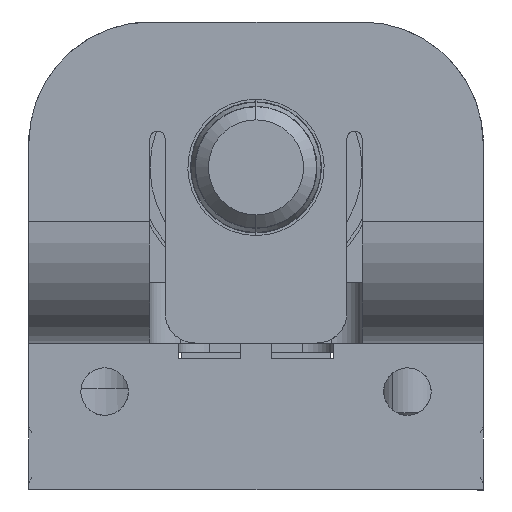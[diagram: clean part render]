
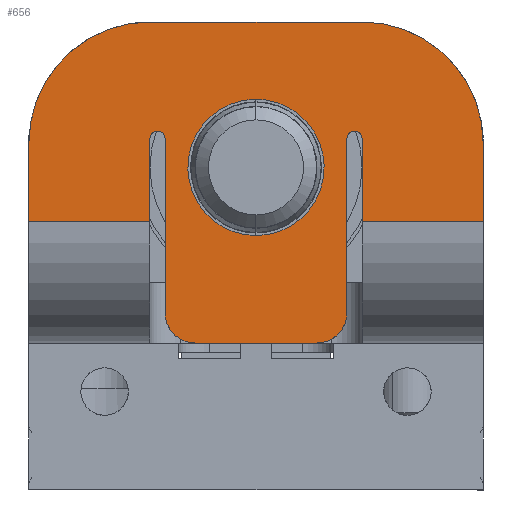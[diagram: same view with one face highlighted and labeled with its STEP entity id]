
A CAD part, left-side view. The second image highlights one B-rep face of the part: STEP entity #656.
In plain terms, the highlighted planar face has unit normal (-1, 0, 0).
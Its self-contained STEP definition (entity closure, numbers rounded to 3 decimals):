
#63=AXIS2_PLACEMENT_3D('Circle Axis2P3D',#61,#62,$) ;
#87=AXIS2_PLACEMENT_3D('Circle Axis2P3D',#85,#86,$) ;
#283=AXIS2_PLACEMENT_3D('Circle Axis2P3D',#281,#282,$) ;
#338=AXIS2_PLACEMENT_3D('Circle Axis2P3D',#336,#337,$) ;
#362=AXIS2_PLACEMENT_3D('Circle Axis2P3D',#360,#361,$) ;
#520=AXIS2_PLACEMENT_3D('Circle Axis2P3D',#518,#519,$) ;
#564=AXIS2_PLACEMENT_3D('Plane Axis2P3D',#561,#562,#563) ;
#577=AXIS2_PLACEMENT_3D('Circle Axis2P3D',#575,#576,$) ;
#594=AXIS2_PLACEMENT_3D('Circle Axis2P3D',#592,#593,$) ;
#608=AXIS2_PLACEMENT_3D('Circle Axis2P3D',#606,#607,$) ;
#615=AXIS2_PLACEMENT_3D('Circle Axis2P3D',#613,#614,$) ;
#58=CARTESIAN_POINT('Vertex',(-2.,1.975,-2.721)) ;
#61=CARTESIAN_POINT('Axis2P3D Location',(-2.,0.,-3.8)) ;
#65=CARTESIAN_POINT('Vertex',(-2.,-1.975,-4.879)) ;
#85=CARTESIAN_POINT('Axis2P3D Location',(-2.,0.,-3.8)) ;
#281=CARTESIAN_POINT('Axis2P3D Location',(-2.,-2.,1.)) ;
#285=CARTESIAN_POINT('Vertex',(-2.,-2.,2.)) ;
#287=CARTESIAN_POINT('Vertex',(-2.,-3.,1.)) ;
#312=CARTESIAN_POINT('Line Origine',(-2.,-3.,-1.875)) ;
#316=CARTESIAN_POINT('Vertex',(-2.,-3.,-4.75)) ;
#336=CARTESIAN_POINT('Axis2P3D Location',(-2.,-3.25,-4.75)) ;
#340=CARTESIAN_POINT('Vertex',(-2.,-3.25,-5.)) ;
#360=CARTESIAN_POINT('Axis2P3D Location',(-2.,-3.25,-4.75)) ;
#364=CARTESIAN_POINT('Vertex',(-2.,-3.5,-4.75)) ;
#384=CARTESIAN_POINT('Line Origine',(-2.,-3.5,-3.375)) ;
#388=CARTESIAN_POINT('Vertex',(-2.,-3.5,-2.)) ;
#474=CARTESIAN_POINT('Vertex',(-2.,-7.5,-2.)) ;
#494=CARTESIAN_POINT('Line Origine',(-2.,-7.5,-3.3)) ;
#498=CARTESIAN_POINT('Vertex',(-2.,-7.5,-4.6)) ;
#518=CARTESIAN_POINT('Axis2P3D Location',(-2.,-3.5,-4.6)) ;
#522=CARTESIAN_POINT('Vertex',(-2.,-3.5,-8.6)) ;
#542=CARTESIAN_POINT('Line Origine',(-2.,0.,-8.6)) ;
#546=CARTESIAN_POINT('Vertex',(-2.,3.5,-8.6)) ;
#561=CARTESIAN_POINT('Axis2P3D Location',(-2.,0.,2.)) ;
#566=CARTESIAN_POINT('Line Origine',(-2.,7.5,-3.3)) ;
#570=CARTESIAN_POINT('Vertex',(-2.,7.5,-2.)) ;
#572=CARTESIAN_POINT('Vertex',(-2.,7.5,-4.6)) ;
#575=CARTESIAN_POINT('Axis2P3D Location',(-2.,3.5,-4.6)) ;
#580=CARTESIAN_POINT('Line Origine',(-2.,-5.5,-2.)) ;
#585=CARTESIAN_POINT('Line Origine',(-2.,0.,2.)) ;
#589=CARTESIAN_POINT('Vertex',(-2.,2.,2.)) ;
#592=CARTESIAN_POINT('Axis2P3D Location',(-2.,2.,1.)) ;
#596=CARTESIAN_POINT('Vertex',(-2.,3.,1.)) ;
#599=CARTESIAN_POINT('Line Origine',(-2.,3.,-1.875)) ;
#603=CARTESIAN_POINT('Vertex',(-2.,3.,-4.75)) ;
#606=CARTESIAN_POINT('Axis2P3D Location',(-2.,3.25,-4.75)) ;
#610=CARTESIAN_POINT('Vertex',(-2.,3.25,-5.)) ;
#613=CARTESIAN_POINT('Axis2P3D Location',(-2.,3.25,-4.75)) ;
#617=CARTESIAN_POINT('Vertex',(-2.,3.5,-4.75)) ;
#620=CARTESIAN_POINT('Line Origine',(-2.,3.5,-3.375)) ;
#624=CARTESIAN_POINT('Vertex',(-2.,3.5,-2.)) ;
#627=CARTESIAN_POINT('Line Origine',(-2.,5.5,-2.)) ;
#62=DIRECTION('Axis2P3D Direction',(1.,0.,-0.)) ;
#86=DIRECTION('Axis2P3D Direction',(1.,0.,-0.)) ;
#282=DIRECTION('Axis2P3D Direction',(1.,0.,-0.)) ;
#313=DIRECTION('Vector Direction',(0.,0.,-1.)) ;
#337=DIRECTION('Axis2P3D Direction',(1.,0.,-0.)) ;
#361=DIRECTION('Axis2P3D Direction',(1.,0.,-0.)) ;
#385=DIRECTION('Vector Direction',(0.,0.,-1.)) ;
#495=DIRECTION('Vector Direction',(0.,0.,-1.)) ;
#519=DIRECTION('Axis2P3D Direction',(1.,0.,-0.)) ;
#543=DIRECTION('Vector Direction',(0.,1.,0.)) ;
#562=DIRECTION('Axis2P3D Direction',(1.,0.,-0.)) ;
#563=DIRECTION('Axis2P3D XDirection',(-0.,0.,-1.)) ;
#567=DIRECTION('Vector Direction',(0.,0.,-1.)) ;
#576=DIRECTION('Axis2P3D Direction',(1.,0.,-0.)) ;
#581=DIRECTION('Vector Direction',(0.,1.,0.)) ;
#586=DIRECTION('Vector Direction',(0.,1.,0.)) ;
#593=DIRECTION('Axis2P3D Direction',(1.,0.,-0.)) ;
#600=DIRECTION('Vector Direction',(0.,0.,-1.)) ;
#607=DIRECTION('Axis2P3D Direction',(1.,0.,-0.)) ;
#614=DIRECTION('Axis2P3D Direction',(1.,0.,-0.)) ;
#621=DIRECTION('Vector Direction',(0.,0.,-1.)) ;
#628=DIRECTION('Vector Direction',(0.,1.,0.)) ;
#314=VECTOR('Line Direction',#313,1.) ;
#386=VECTOR('Line Direction',#385,1.) ;
#496=VECTOR('Line Direction',#495,1.) ;
#544=VECTOR('Line Direction',#543,1.) ;
#568=VECTOR('Line Direction',#567,1.) ;
#582=VECTOR('Line Direction',#581,1.) ;
#587=VECTOR('Line Direction',#586,1.) ;
#601=VECTOR('Line Direction',#600,1.) ;
#622=VECTOR('Line Direction',#621,1.) ;
#629=VECTOR('Line Direction',#628,1.) ;
#633=ORIENTED_EDGE('',*,*,#574,.T.) ;
#634=ORIENTED_EDGE('',*,*,#579,.F.) ;
#635=ORIENTED_EDGE('',*,*,#548,.F.) ;
#636=ORIENTED_EDGE('',*,*,#524,.F.) ;
#637=ORIENTED_EDGE('',*,*,#500,.F.) ;
#638=ORIENTED_EDGE('',*,*,#584,.T.) ;
#639=ORIENTED_EDGE('',*,*,#390,.T.) ;
#640=ORIENTED_EDGE('',*,*,#366,.T.) ;
#641=ORIENTED_EDGE('',*,*,#342,.T.) ;
#642=ORIENTED_EDGE('',*,*,#318,.F.) ;
#643=ORIENTED_EDGE('',*,*,#289,.F.) ;
#644=ORIENTED_EDGE('',*,*,#591,.T.) ;
#645=ORIENTED_EDGE('',*,*,#598,.F.) ;
#646=ORIENTED_EDGE('',*,*,#605,.T.) ;
#647=ORIENTED_EDGE('',*,*,#612,.T.) ;
#648=ORIENTED_EDGE('',*,*,#619,.T.) ;
#649=ORIENTED_EDGE('',*,*,#626,.F.) ;
#650=ORIENTED_EDGE('',*,*,#631,.T.) ;
#653=ORIENTED_EDGE('',*,*,#89,.T.) ;
#654=ORIENTED_EDGE('',*,*,#67,.T.) ;
#655=FACE_BOUND('',#652,.T.) ;
#656=ADVANCED_FACE('Hauptk\X2\00F6\X0\rper',(#651,#655),#565,.F.) ;
#64=CIRCLE('generated circle',#63,2.25) ;
#88=CIRCLE('generated circle',#87,2.25) ;
#284=CIRCLE('generated circle',#283,1.) ;
#339=CIRCLE('generated circle',#338,0.25) ;
#363=CIRCLE('generated circle',#362,0.25) ;
#521=CIRCLE('generated circle',#520,4.) ;
#578=CIRCLE('generated circle',#577,4.) ;
#595=CIRCLE('generated circle',#594,1.) ;
#609=CIRCLE('generated circle',#608,0.25) ;
#616=CIRCLE('generated circle',#615,0.25) ;
#67=EDGE_CURVE('',#66,#59,#64,.T.) ;
#89=EDGE_CURVE('',#59,#66,#88,.T.) ;
#289=EDGE_CURVE('',#286,#288,#284,.T.) ;
#318=EDGE_CURVE('',#288,#317,#315,.T.) ;
#342=EDGE_CURVE('',#341,#317,#339,.T.) ;
#366=EDGE_CURVE('',#365,#341,#363,.T.) ;
#390=EDGE_CURVE('',#389,#365,#387,.T.) ;
#500=EDGE_CURVE('',#475,#499,#497,.T.) ;
#524=EDGE_CURVE('',#499,#523,#521,.T.) ;
#548=EDGE_CURVE('',#523,#547,#545,.T.) ;
#574=EDGE_CURVE('',#571,#573,#569,.T.) ;
#579=EDGE_CURVE('',#547,#573,#578,.T.) ;
#584=EDGE_CURVE('',#475,#389,#583,.T.) ;
#591=EDGE_CURVE('',#286,#590,#588,.T.) ;
#598=EDGE_CURVE('',#597,#590,#595,.T.) ;
#605=EDGE_CURVE('',#597,#604,#602,.T.) ;
#612=EDGE_CURVE('',#604,#611,#609,.T.) ;
#619=EDGE_CURVE('',#611,#618,#616,.T.) ;
#626=EDGE_CURVE('',#625,#618,#623,.T.) ;
#631=EDGE_CURVE('',#625,#571,#630,.T.) ;
#632=EDGE_LOOP('',(#633,#634,#635,#636,#637,#638,#639,#640,#641,#642,#643,#644,#645,#646,#647,#648,#649,#650)) ;
#652=EDGE_LOOP('',(#653,#654)) ;
#651=FACE_OUTER_BOUND('',#632,.T.) ;
#315=LINE('Line',#312,#314) ;
#387=LINE('Line',#384,#386) ;
#497=LINE('Line',#494,#496) ;
#545=LINE('Line',#542,#544) ;
#569=LINE('Line',#566,#568) ;
#583=LINE('Line',#580,#582) ;
#588=LINE('Line',#585,#587) ;
#602=LINE('Line',#599,#601) ;
#623=LINE('Line',#620,#622) ;
#630=LINE('Line',#627,#629) ;
#565=PLANE('',#564) ;
#59=VERTEX_POINT('',#58) ;
#66=VERTEX_POINT('',#65) ;
#286=VERTEX_POINT('',#285) ;
#288=VERTEX_POINT('',#287) ;
#317=VERTEX_POINT('',#316) ;
#341=VERTEX_POINT('',#340) ;
#365=VERTEX_POINT('',#364) ;
#389=VERTEX_POINT('',#388) ;
#475=VERTEX_POINT('',#474) ;
#499=VERTEX_POINT('',#498) ;
#523=VERTEX_POINT('',#522) ;
#547=VERTEX_POINT('',#546) ;
#571=VERTEX_POINT('',#570) ;
#573=VERTEX_POINT('',#572) ;
#590=VERTEX_POINT('',#589) ;
#597=VERTEX_POINT('',#596) ;
#604=VERTEX_POINT('',#603) ;
#611=VERTEX_POINT('',#610) ;
#618=VERTEX_POINT('',#617) ;
#625=VERTEX_POINT('',#624) ;
